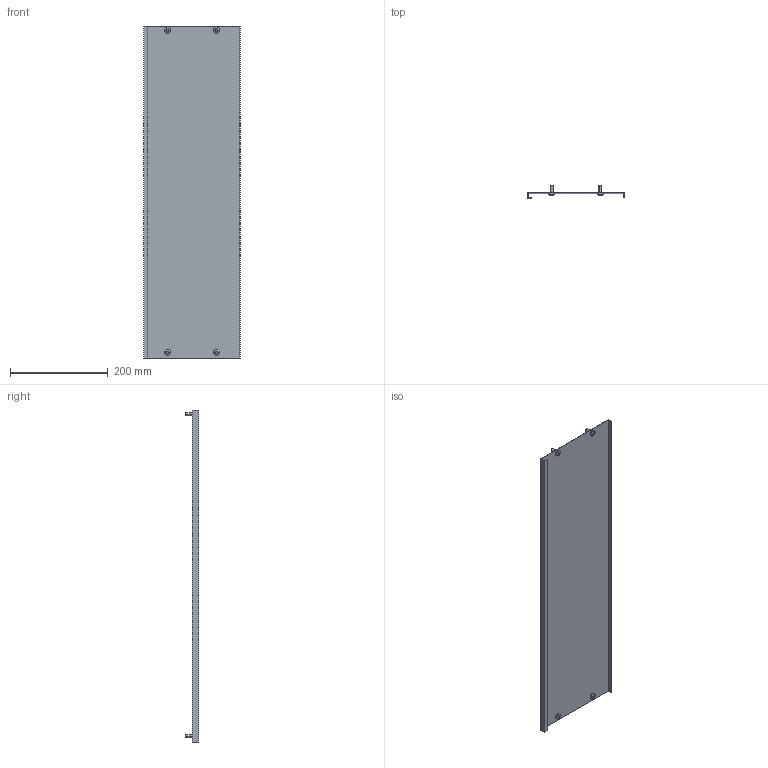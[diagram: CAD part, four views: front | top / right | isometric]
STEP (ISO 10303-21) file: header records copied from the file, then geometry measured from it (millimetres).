
FILE_DESCRIPTION (( 'STEP AP214' ), '1' );
FILE_NAME ('FO-00-PVS-020-080 Ïëàñòðîí ãëóõîé âíóòðåííèé 200õ800.STEP', '2025-09-30T07:51:13', ( '' ), ( '' ), 'SwSTEP 2.0', 'SolidWorks 2023', '' );
FILE_SCHEMA (( 'AUTOMOTIVE_DESIGN' ));
Length unit declared in the file: millimetre
Products named in the file (3): FO-00-PVS-020-080 Пластрон глухой внутренний 200х800; Винт M6x16 20-080 IEK
Assembly tree (3 placements, depth 2):
  FO-00-PVS-020-080 Пластрон глухой внутренний 200х800
    FO-00-PVS-020-080 Пластрон глухой внутренний 200х800
    Винт M6x16 20-080 IEK  x2
Bounding box: 198 x 27 x 679 mm (x, y, z)
Volume: 230988.5 mm3; surface area: 309283.5 mm2
Topology: 5 solids, 5 shells, 150 faces, 392 edges, 256 vertices
Faces by surface type: cylinder 88, plane 42, cone 12, bspline 8
Entity records: 3233 total; most frequent: CARTESIAN_POINT 724, ORIENTED_EDGE 512, DIRECTION 500, EDGE_CURVE 256, AXIS2_PLACEMENT_3D 180, VERTEX_POINT 168, LINE 140, VECTOR 140
